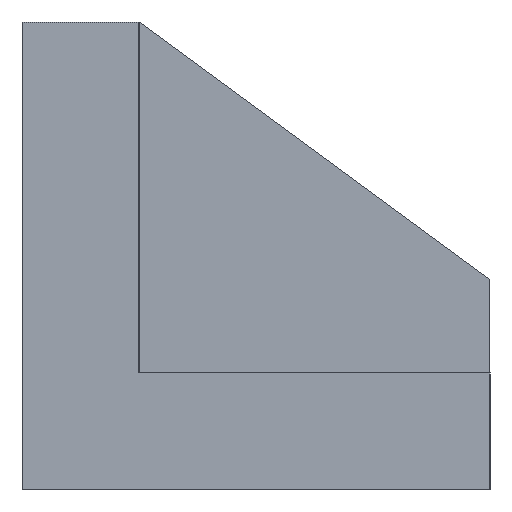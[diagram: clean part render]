
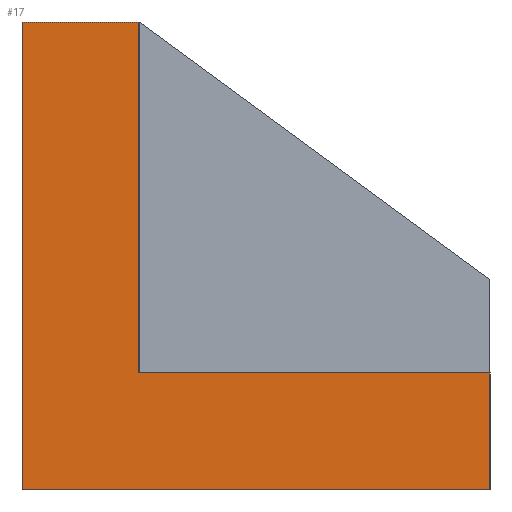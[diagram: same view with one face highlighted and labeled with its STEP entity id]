
A CAD part, left-side view. The second image highlights one B-rep face of the part: STEP entity #17.
In plain terms, the highlighted planar face has unit normal (-1, 0, 0).
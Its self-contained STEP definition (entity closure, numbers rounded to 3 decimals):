
#17 = ADVANCED_FACE('',(#18),#32,.F.);
#18 = FACE_BOUND('',#19,.F.);
#19 = EDGE_LOOP('',(#20,#55,#83,#111,#139,#167));
#20 = ORIENTED_EDGE('',*,*,#21,.F.);
#21 = EDGE_CURVE('',#22,#24,#26,.T.);
#22 = VERTEX_POINT('',#23);
#23 = CARTESIAN_POINT('',(0.,0.,0.));
#24 = VERTEX_POINT('',#25);
#25 = CARTESIAN_POINT('',(0.,0.,10.));
#26 = SURFACE_CURVE('',#27,(#31,#43),.PCURVE_S1.);
#27 = LINE('',#28,#29);
#28 = CARTESIAN_POINT('',(0.,0.,0.));
#29 = VECTOR('',#30,1.);
#30 = DIRECTION('',(0.,0.,1.));
#31 = PCURVE('',#32,#37);
#32 = PLANE('',#33);
#33 = AXIS2_PLACEMENT_3D('',#34,#35,#36);
#34 = CARTESIAN_POINT('',(0.,0.,0.));
#35 = DIRECTION('',(1.,0.,0.));
#36 = DIRECTION('',(0.,0.,1.));
#37 = DEFINITIONAL_REPRESENTATION('',(#38),#42);
#38 = LINE('',#39,#40);
#39 = CARTESIAN_POINT('',(0.,0.));
#40 = VECTOR('',#41,1.);
#41 = DIRECTION('',(1.,0.));
#42 = ( GEOMETRIC_REPRESENTATION_CONTEXT(2) 
PARAMETRIC_REPRESENTATION_CONTEXT() REPRESENTATION_CONTEXT('2D SPACE',''
  ) );
#43 = PCURVE('',#44,#49);
#44 = PLANE('',#45);
#45 = AXIS2_PLACEMENT_3D('',#46,#47,#48);
#46 = CARTESIAN_POINT('',(0.,0.,0.));
#47 = DIRECTION('',(0.,1.,0.));
#48 = DIRECTION('',(0.,0.,1.));
#49 = DEFINITIONAL_REPRESENTATION('',(#50),#54);
#50 = LINE('',#51,#52);
#51 = CARTESIAN_POINT('',(0.,0.));
#52 = VECTOR('',#53,1.);
#53 = DIRECTION('',(1.,0.));
#54 = ( GEOMETRIC_REPRESENTATION_CONTEXT(2) 
PARAMETRIC_REPRESENTATION_CONTEXT() REPRESENTATION_CONTEXT('2D SPACE',''
  ) );
#55 = ORIENTED_EDGE('',*,*,#56,.T.);
#56 = EDGE_CURVE('',#22,#57,#59,.T.);
#57 = VERTEX_POINT('',#58);
#58 = CARTESIAN_POINT('',(0.,40.,0.));
#59 = SURFACE_CURVE('',#60,(#64,#71),.PCURVE_S1.);
#60 = LINE('',#61,#62);
#61 = CARTESIAN_POINT('',(0.,0.,0.));
#62 = VECTOR('',#63,1.);
#63 = DIRECTION('',(0.,1.,0.));
#64 = PCURVE('',#32,#65);
#65 = DEFINITIONAL_REPRESENTATION('',(#66),#70);
#66 = LINE('',#67,#68);
#67 = CARTESIAN_POINT('',(0.,0.));
#68 = VECTOR('',#69,1.);
#69 = DIRECTION('',(0.,-1.));
#70 = ( GEOMETRIC_REPRESENTATION_CONTEXT(2) 
PARAMETRIC_REPRESENTATION_CONTEXT() REPRESENTATION_CONTEXT('2D SPACE',''
  ) );
#71 = PCURVE('',#72,#77);
#72 = PLANE('',#73);
#73 = AXIS2_PLACEMENT_3D('',#74,#75,#76);
#74 = CARTESIAN_POINT('',(0.,0.,0.));
#75 = DIRECTION('',(0.,0.,1.));
#76 = DIRECTION('',(1.,0.,0.));
#77 = DEFINITIONAL_REPRESENTATION('',(#78),#82);
#78 = LINE('',#79,#80);
#79 = CARTESIAN_POINT('',(0.,0.));
#80 = VECTOR('',#81,1.);
#81 = DIRECTION('',(0.,1.));
#82 = ( GEOMETRIC_REPRESENTATION_CONTEXT(2) 
PARAMETRIC_REPRESENTATION_CONTEXT() REPRESENTATION_CONTEXT('2D SPACE',''
  ) );
#83 = ORIENTED_EDGE('',*,*,#84,.F.);
#84 = EDGE_CURVE('',#85,#57,#87,.T.);
#85 = VERTEX_POINT('',#86);
#86 = CARTESIAN_POINT('',(0.,40.,40.));
#87 = SURFACE_CURVE('',#88,(#92,#99),.PCURVE_S1.);
#88 = LINE('',#89,#90);
#89 = CARTESIAN_POINT('',(0.,40.,40.));
#90 = VECTOR('',#91,1.);
#91 = DIRECTION('',(0.,0.,-1.));
#92 = PCURVE('',#32,#93);
#93 = DEFINITIONAL_REPRESENTATION('',(#94),#98);
#94 = LINE('',#95,#96);
#95 = CARTESIAN_POINT('',(40.,-40.));
#96 = VECTOR('',#97,1.);
#97 = DIRECTION('',(-1.,0.));
#98 = ( GEOMETRIC_REPRESENTATION_CONTEXT(2) 
PARAMETRIC_REPRESENTATION_CONTEXT() REPRESENTATION_CONTEXT('2D SPACE',''
  ) );
#99 = PCURVE('',#100,#105);
#100 = PLANE('',#101);
#101 = AXIS2_PLACEMENT_3D('',#102,#103,#104);
#102 = CARTESIAN_POINT('',(0.,40.,0.));
#103 = DIRECTION('',(0.,1.,0.));
#104 = DIRECTION('',(0.,0.,1.));
#105 = DEFINITIONAL_REPRESENTATION('',(#106),#110);
#106 = LINE('',#107,#108);
#107 = CARTESIAN_POINT('',(40.,0.));
#108 = VECTOR('',#109,1.);
#109 = DIRECTION('',(-1.,0.));
#110 = ( GEOMETRIC_REPRESENTATION_CONTEXT(2) 
PARAMETRIC_REPRESENTATION_CONTEXT() REPRESENTATION_CONTEXT('2D SPACE',''
  ) );
#111 = ORIENTED_EDGE('',*,*,#112,.F.);
#112 = EDGE_CURVE('',#113,#85,#115,.T.);
#113 = VERTEX_POINT('',#114);
#114 = CARTESIAN_POINT('',(0.,30.,40.));
#115 = SURFACE_CURVE('',#116,(#120,#127),.PCURVE_S1.);
#116 = LINE('',#117,#118);
#117 = CARTESIAN_POINT('',(0.,30.,40.));
#118 = VECTOR('',#119,1.);
#119 = DIRECTION('',(0.,1.,0.));
#120 = PCURVE('',#32,#121);
#121 = DEFINITIONAL_REPRESENTATION('',(#122),#126);
#122 = LINE('',#123,#124);
#123 = CARTESIAN_POINT('',(40.,-30.));
#124 = VECTOR('',#125,1.);
#125 = DIRECTION('',(0.,-1.));
#126 = ( GEOMETRIC_REPRESENTATION_CONTEXT(2) 
PARAMETRIC_REPRESENTATION_CONTEXT() REPRESENTATION_CONTEXT('2D SPACE',''
  ) );
#127 = PCURVE('',#128,#133);
#128 = PLANE('',#129);
#129 = AXIS2_PLACEMENT_3D('',#130,#131,#132);
#130 = CARTESIAN_POINT('',(0.,30.,40.));
#131 = DIRECTION('',(0.,0.,1.));
#132 = DIRECTION('',(1.,0.,0.));
#133 = DEFINITIONAL_REPRESENTATION('',(#134),#138);
#134 = LINE('',#135,#136);
#135 = CARTESIAN_POINT('',(0.,0.));
#136 = VECTOR('',#137,1.);
#137 = DIRECTION('',(0.,1.));
#138 = ( GEOMETRIC_REPRESENTATION_CONTEXT(2) 
PARAMETRIC_REPRESENTATION_CONTEXT() REPRESENTATION_CONTEXT('2D SPACE',''
  ) );
#139 = ORIENTED_EDGE('',*,*,#140,.F.);
#140 = EDGE_CURVE('',#141,#113,#143,.T.);
#141 = VERTEX_POINT('',#142);
#142 = CARTESIAN_POINT('',(0.,30.,10.));
#143 = SURFACE_CURVE('',#144,(#148,#155),.PCURVE_S1.);
#144 = LINE('',#145,#146);
#145 = CARTESIAN_POINT('',(0.,30.,10.));
#146 = VECTOR('',#147,1.);
#147 = DIRECTION('',(0.,0.,1.));
#148 = PCURVE('',#32,#149);
#149 = DEFINITIONAL_REPRESENTATION('',(#150),#154);
#150 = LINE('',#151,#152);
#151 = CARTESIAN_POINT('',(10.,-30.));
#152 = VECTOR('',#153,1.);
#153 = DIRECTION('',(1.,0.));
#154 = ( GEOMETRIC_REPRESENTATION_CONTEXT(2) 
PARAMETRIC_REPRESENTATION_CONTEXT() REPRESENTATION_CONTEXT('2D SPACE',''
  ) );
#155 = PCURVE('',#156,#161);
#156 = PLANE('',#157);
#157 = AXIS2_PLACEMENT_3D('',#158,#159,#160);
#158 = CARTESIAN_POINT('',(0.,30.,10.));
#159 = DIRECTION('',(0.,1.,0.));
#160 = DIRECTION('',(0.,0.,1.));
#161 = DEFINITIONAL_REPRESENTATION('',(#162),#166);
#162 = LINE('',#163,#164);
#163 = CARTESIAN_POINT('',(0.,0.));
#164 = VECTOR('',#165,1.);
#165 = DIRECTION('',(1.,0.));
#166 = ( GEOMETRIC_REPRESENTATION_CONTEXT(2) 
PARAMETRIC_REPRESENTATION_CONTEXT() REPRESENTATION_CONTEXT('2D SPACE',''
  ) );
#167 = ORIENTED_EDGE('',*,*,#168,.F.);
#168 = EDGE_CURVE('',#24,#141,#169,.T.);
#169 = SURFACE_CURVE('',#170,(#174,#181),.PCURVE_S1.);
#170 = LINE('',#171,#172);
#171 = CARTESIAN_POINT('',(0.,0.,10.));
#172 = VECTOR('',#173,1.);
#173 = DIRECTION('',(0.,1.,0.));
#174 = PCURVE('',#32,#175);
#175 = DEFINITIONAL_REPRESENTATION('',(#176),#180);
#176 = LINE('',#177,#178);
#177 = CARTESIAN_POINT('',(10.,0.));
#178 = VECTOR('',#179,1.);
#179 = DIRECTION('',(0.,-1.));
#180 = ( GEOMETRIC_REPRESENTATION_CONTEXT(2) 
PARAMETRIC_REPRESENTATION_CONTEXT() REPRESENTATION_CONTEXT('2D SPACE',''
  ) );
#181 = PCURVE('',#182,#187);
#182 = PLANE('',#183);
#183 = AXIS2_PLACEMENT_3D('',#184,#185,#186);
#184 = CARTESIAN_POINT('',(0.,0.,10.));
#185 = DIRECTION('',(0.,0.,1.));
#186 = DIRECTION('',(1.,0.,0.));
#187 = DEFINITIONAL_REPRESENTATION('',(#188),#192);
#188 = LINE('',#189,#190);
#189 = CARTESIAN_POINT('',(0.,0.));
#190 = VECTOR('',#191,1.);
#191 = DIRECTION('',(0.,1.));
#192 = ( GEOMETRIC_REPRESENTATION_CONTEXT(2) 
PARAMETRIC_REPRESENTATION_CONTEXT() REPRESENTATION_CONTEXT('2D SPACE',''
  ) );
